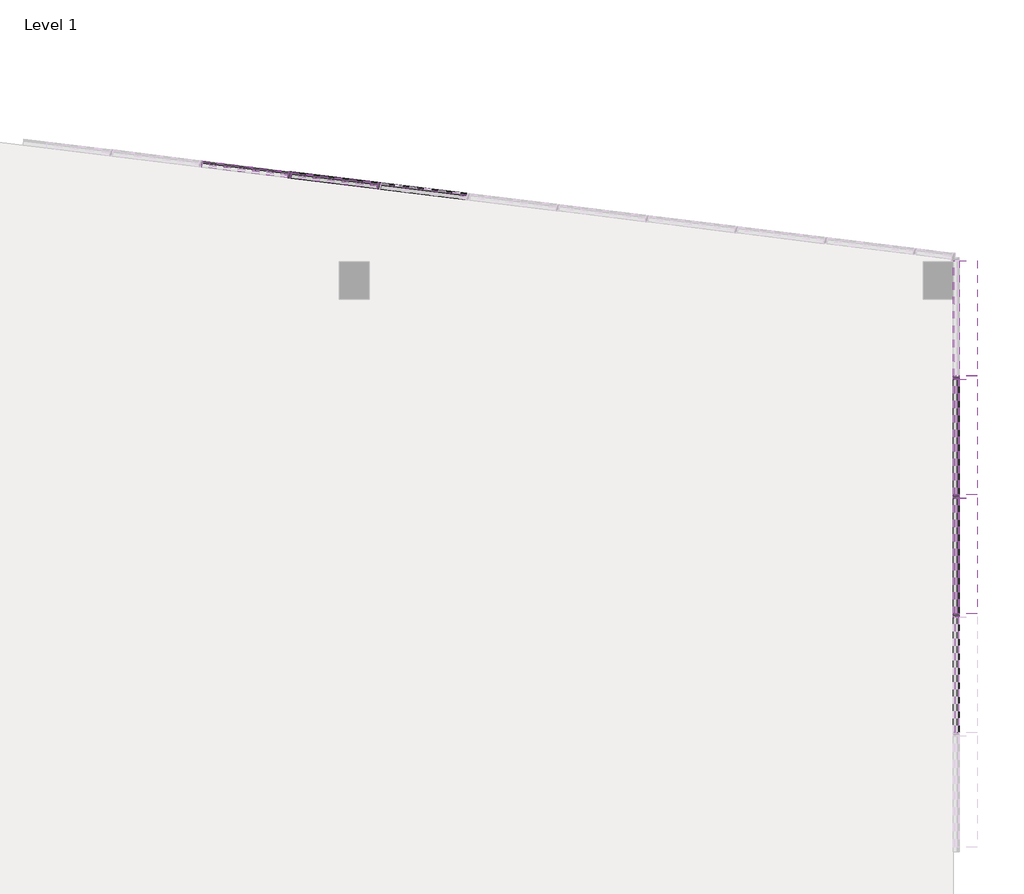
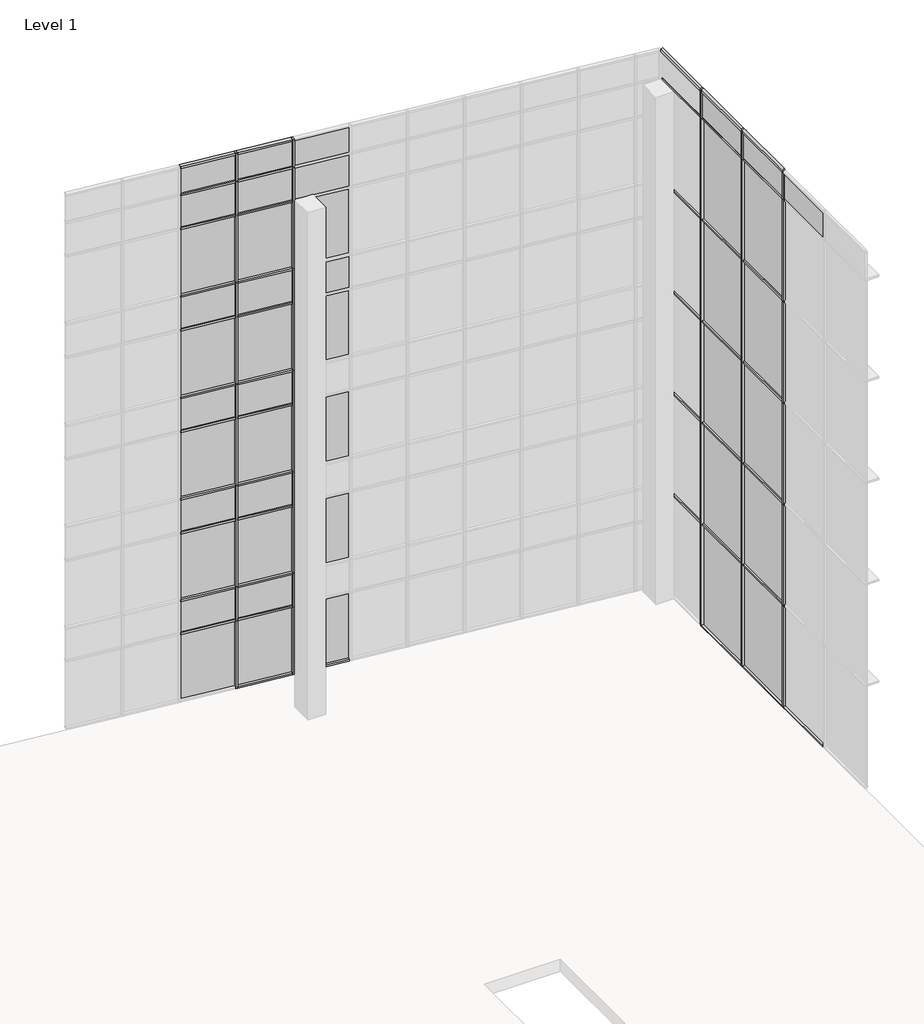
# One storey, part 20 of 23: 77 members, 43 plates.
"""IFC4 building model written with IfcOpenShell, lengths in millimetres."""

from ifc_helpers import new_model, si_unit, origin, place, context, project, spatial, transform, mapped, element, save
from components import member_4178592a, member_eccb456b, member_ad65018b, member_a26b4311, member_2b49869a, member_f92b8aa2, member_810865a4, member_f0fea5a5, member_6d5c3e5e, member_90793d7c, member_64b167af, member_9764dd38, system_panel_glazed_14c75400, system_panel_glazed_bb983545, system_panel_solid_5dfe6f83, system_panel_solid_e25e2004, system_panel_solid_b7551183, system_panel_solid_a8b18003

model = new_model("IFC4")

# Units and contexts
model_context = context("Model", 3, world=origin())
ifc_project = project(units=[si_unit("LENGTHUNIT", "METRE", prefix="MILLI")], contexts=[model_context])

# Site, building, storey
site = spatial("IfcSite", under=ifc_project)
building = spatial("IfcBuilding", under=site)
storey = spatial("IfcBuildingStorey", under=building, Name="Level 1", Elevation=0.0)

# Members
placement = place(None, origin())
member_shape = member_4178592a(model_context)
element("IfcMember", 1, ObjectType="Quad Corner Mullion : 5\" x 5\" Quad Corner", at=placement, inside=storey, context=model_context, shape_type="MappedRepresentation", body=[
    mapped(member_shape, transform((15106.8054088, 2752.982224, 19304.0), x_axis=(0.0, 0.0, 1.0), y_axis=(-1.0, 0.0, 0.0), z_axis=(0.0, -1.0, 0.0))),
])
element("IfcMember", 2, ObjectType="Quad Corner Mullion : 5\" x 5\" Quad Corner", at=placement, inside=storey, context=model_context, shape_type="MappedRepresentation", body=[
    mapped(member_shape, transform((15106.8054088, 5171.1400916, 19304.0), x_axis=(0.0, 0.0, 1.0), y_axis=(-1.0, 0.0, 0.0), z_axis=(0.0, -1.0, 0.0))),
])
member_2_shape = member_eccb456b(model_context)
element("IfcMember", 3, ObjectType="Quad Corner Mullion : 5\" x 5\" Quad Corner", at=placement, inside=storey, context=model_context, shape_type="MappedRepresentation", body=[
    mapped(member_2_shape, transform((15106.8054088, 7589.2979592, 19304.0), x_axis=(0.0, 0.0, 1.0), y_axis=(-1.0, 0.0, 0.0), z_axis=(0.0, -1.0, 0.0))),
])
element("IfcMember", 4, ObjectType="Quad Corner Mullion : 5\" x 5\" Quad Corner", at=placement, inside=storey, context=model_context, shape_type="MappedRepresentation", body=[
    mapped(member_shape, transform((15106.8054088, 2689.482224, 0.0), x_axis=(0.0, 0.0, -1.0), y_axis=(-1.0, 0.0, 0.0), z_axis=(0.0, 1.0, 0.0))),
])
element("IfcMember", 5, ObjectType="Quad Corner Mullion : 5\" x 5\" Quad Corner", at=placement, inside=storey, context=model_context, shape_type="MappedRepresentation", body=[
    mapped(member_shape, transform((15106.8054088, 5107.6400916, 0.0), x_axis=(0.0, 0.0, -1.0), y_axis=(-1.0, 0.0, 0.0), z_axis=(0.0, 1.0, 0.0))),
])
element("IfcMember", 6, ObjectType="Quad Corner Mullion : 5\" x 5\" Quad Corner", at=placement, inside=storey, context=model_context, shape_type="MappedRepresentation", body=[
    mapped(member_shape, transform((15106.8054088, 7525.7979592, 0.0), x_axis=(0.0, 0.0, -1.0), y_axis=(-1.0, 0.0, 0.0), z_axis=(0.0, 1.0, 0.0))),
])
member_3_shape = member_ad65018b(model_context)
element("IfcMember", 7, ObjectType="Rectangular Mullion : 2.5\" x 18\" rectangular", at=placement, inside=storey, context=model_context, shape_type="MappedRepresentation", body=[
    mapped(member_3_shape, transform((15106.8054088, 7589.2979592, 3666.6228811), x_axis=(0.0, 0.0, 1.0), y_axis=(-1.0, 0.0, 0.0), z_axis=(0.0, -1.0, 0.0))),
])
element("IfcMember", 8, ObjectType="Rectangular Mullion : 2.5\" x 18\" rectangular", at=placement, inside=storey, context=model_context, shape_type="MappedRepresentation", body=[
    mapped(member_3_shape, transform((15106.8054088, 7589.2979592, 7324.2228811), x_axis=(0.0, 0.0, 1.0), y_axis=(-1.0, 0.0, 0.0), z_axis=(0.0, -1.0, 0.0))),
])
element("IfcMember", 9, ObjectType="Rectangular Mullion : 2.5\" x 18\" rectangular", at=placement, inside=storey, context=model_context, shape_type="MappedRepresentation", body=[
    mapped(member_3_shape, transform((15106.8054088, 7589.2979592, 10981.8228811), x_axis=(0.0, 0.0, 1.0), y_axis=(-1.0, 0.0, 0.0), z_axis=(0.0, -1.0, 0.0))),
])
element("IfcMember", 10, ObjectType="Rectangular Mullion : 2.5\" x 18\" rectangular", at=placement, inside=storey, context=model_context, shape_type="MappedRepresentation", body=[
    mapped(member_3_shape, transform((15106.8054088, 7589.2979592, 14639.4228811), x_axis=(0.0, 0.0, 1.0), y_axis=(-1.0, 0.0, 0.0), z_axis=(0.0, -1.0, 0.0))),
])
element("IfcMember", 11, ObjectType="Rectangular Mullion : 2.5\" x 18\" rectangular", at=placement, inside=storey, context=model_context, shape_type="MappedRepresentation", body=[
    mapped(member_3_shape, transform((15106.8054088, 7589.2979592, 18297.0228811), x_axis=(0.0, 0.0, 1.0), y_axis=(-1.0, 0.0, 0.0), z_axis=(0.0, -1.0, 0.0))),
])
member_4_shape = member_a26b4311(model_context)
element("IfcMember", 12, ObjectType="Rectangular Mullion : 2.5\" x 18\" rectangular", at=placement, inside=storey, context=model_context, shape_type="MappedRepresentation", body=[
    mapped(member_4_shape, transform((15106.8054088, 2752.982224, 3666.6228811), x_axis=(0.0, 0.0, 1.0), y_axis=(-1.0, 0.0, 0.0), z_axis=(0.0, -1.0, 0.0))),
])
element("IfcMember", 13, ObjectType="Rectangular Mullion : 2.5\" x 18\" rectangular", at=placement, inside=storey, context=model_context, shape_type="MappedRepresentation", body=[
    mapped(member_4_shape, transform((15106.8054088, 5171.1400916, 3666.6228811), x_axis=(0.0, 0.0, 1.0), y_axis=(-1.0, 0.0, 0.0), z_axis=(0.0, -1.0, 0.0))),
])
element("IfcMember", 14, ObjectType="Rectangular Mullion : 2.5\" x 18\" rectangular", at=placement, inside=storey, context=model_context, shape_type="MappedRepresentation", body=[
    mapped(member_4_shape, transform((15106.8054088, 2752.982224, 7324.2228811), x_axis=(0.0, 0.0, 1.0), y_axis=(-1.0, 0.0, 0.0), z_axis=(0.0, -1.0, 0.0))),
])
element("IfcMember", 15, ObjectType="Rectangular Mullion : 2.5\" x 18\" rectangular", at=placement, inside=storey, context=model_context, shape_type="MappedRepresentation", body=[
    mapped(member_4_shape, transform((15106.8054088, 5171.1400916, 7324.2228811), x_axis=(0.0, 0.0, 1.0), y_axis=(-1.0, 0.0, 0.0), z_axis=(0.0, -1.0, 0.0))),
])
element("IfcMember", 16, ObjectType="Rectangular Mullion : 2.5\" x 18\" rectangular", at=placement, inside=storey, context=model_context, shape_type="MappedRepresentation", body=[
    mapped(member_4_shape, transform((15106.8054088, 2752.982224, 10981.8228811), x_axis=(0.0, 0.0, 1.0), y_axis=(-1.0, 0.0, 0.0), z_axis=(0.0, -1.0, 0.0))),
])
element("IfcMember", 17, ObjectType="Rectangular Mullion : 2.5\" x 18\" rectangular", at=placement, inside=storey, context=model_context, shape_type="MappedRepresentation", body=[
    mapped(member_4_shape, transform((15106.8054088, 5171.1400916, 10981.8228811), x_axis=(0.0, 0.0, 1.0), y_axis=(-1.0, 0.0, 0.0), z_axis=(0.0, -1.0, 0.0))),
])
element("IfcMember", 18, ObjectType="Rectangular Mullion : 2.5\" x 18\" rectangular", at=placement, inside=storey, context=model_context, shape_type="MappedRepresentation", body=[
    mapped(member_4_shape, transform((15106.8054088, 2752.982224, 14639.4228811), x_axis=(0.0, 0.0, 1.0), y_axis=(-1.0, 0.0, 0.0), z_axis=(0.0, -1.0, 0.0))),
])
element("IfcMember", 19, ObjectType="Rectangular Mullion : 2.5\" x 18\" rectangular", at=placement, inside=storey, context=model_context, shape_type="MappedRepresentation", body=[
    mapped(member_4_shape, transform((15106.8054088, 5171.1400916, 14639.4228811), x_axis=(0.0, 0.0, 1.0), y_axis=(-1.0, 0.0, 0.0), z_axis=(0.0, -1.0, 0.0))),
])
element("IfcMember", 20, ObjectType="Rectangular Mullion : 2.5\" x 18\" rectangular", at=placement, inside=storey, context=model_context, shape_type="MappedRepresentation", body=[
    mapped(member_4_shape, transform((15106.8054088, 2752.982224, 18297.0228811), x_axis=(0.0, 0.0, 1.0), y_axis=(-1.0, 0.0, 0.0), z_axis=(0.0, -1.0, 0.0))),
])
element("IfcMember", 21, ObjectType="Rectangular Mullion : 2.5\" x 18\" rectangular", at=placement, inside=storey, context=model_context, shape_type="MappedRepresentation", body=[
    mapped(member_4_shape, transform((15106.8054088, 5171.1400916, 18297.0228811), x_axis=(0.0, 0.0, 1.0), y_axis=(-1.0, 0.0, 0.0), z_axis=(0.0, -1.0, 0.0))),
])
member_5_shape = member_2b49869a(model_context)
element("IfcMember", 22, ObjectType="Rectangular Mullion : 2.5\" x 5\" rectangular", at=placement, inside=storey, context=model_context, shape_type="MappedRepresentation", body=[
    mapped(member_5_shape, transform((3375.3424535, 11456.9212356, 2438.4), x_axis=(0.9925461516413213, -0.12186934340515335, 0.0), y_axis=(-0.12186934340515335, -0.9925461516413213, 0.0), z_axis=(0.0, 0.0, -1.0))),
])
element("IfcMember", 23, ObjectType="Rectangular Mullion : 2.5\" x 5\" rectangular", at=placement, inside=storey, context=model_context, shape_type="MappedRepresentation", body=[
    mapped(member_5_shape, transform((1560.1740514, 11679.7958909, 2438.4), x_axis=(0.9925461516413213, -0.12186934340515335, 0.0), y_axis=(-0.12186934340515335, -0.9925461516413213, 0.0), z_axis=(0.0, 0.0, -1.0))),
])
member_6_shape = member_f92b8aa2(model_context)
element("IfcMember", 24, ObjectType="Rectangular Mullion : 2.5\" x 5\" rectangular", at=placement, inside=storey, context=model_context, shape_type="MappedRepresentation", body=[
    mapped(member_6_shape, transform((3375.3424535, 11456.9212356, 18288.0), x_axis=(0.9925461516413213, -0.12186934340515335, 0.0), y_axis=(-0.12186934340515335, -0.9925461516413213, 0.0), z_axis=(0.0, 0.0, -1.0))),
])
element("IfcMember", 25, ObjectType="Rectangular Mullion : 2.5\" x 5\" rectangular", at=placement, inside=storey, context=model_context, shape_type="MappedRepresentation", body=[
    mapped(member_6_shape, transform((1560.1740514, 11679.7958909, 18288.0), x_axis=(0.9925461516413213, -0.12186934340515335, 0.0), y_axis=(-0.12186934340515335, -0.9925461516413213, 0.0), z_axis=(0.0, 0.0, -1.0))),
])
member_7_shape = member_810865a4(model_context)
element("IfcMember", 26, ObjectType="Rectangular Mullion : 2.5\" x 5\" rectangular", at=placement, inside=storey, context=model_context, shape_type="MappedRepresentation", body=[
    mapped(member_7_shape, transform((3375.3424535, 11456.9212356, 14630.4), x_axis=(0.9925461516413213, -0.12186934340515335, 0.0), y_axis=(-0.12186934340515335, -0.9925461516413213, 0.0), z_axis=(0.0, 0.0, -1.0))),
])
element("IfcMember", 27, ObjectType="Rectangular Mullion : 2.5\" x 5\" rectangular", at=placement, inside=storey, context=model_context, shape_type="MappedRepresentation", body=[
    mapped(member_7_shape, transform((3375.3424535, 11456.9212356, 10972.8), x_axis=(0.9925461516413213, -0.12186934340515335, 0.0), y_axis=(-0.12186934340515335, -0.9925461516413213, 0.0), z_axis=(0.0, 0.0, -1.0))),
])
element("IfcMember", 28, ObjectType="Rectangular Mullion : 2.5\" x 5\" rectangular", at=placement, inside=storey, context=model_context, shape_type="MappedRepresentation", body=[
    mapped(member_7_shape, transform((3375.3424535, 11456.9212356, 7315.2), x_axis=(0.9925461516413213, -0.12186934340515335, 0.0), y_axis=(-0.12186934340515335, -0.9925461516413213, 0.0), z_axis=(0.0, 0.0, -1.0))),
])
element("IfcMember", 29, ObjectType="Rectangular Mullion : 2.5\" x 5\" rectangular", at=placement, inside=storey, context=model_context, shape_type="MappedRepresentation", body=[
    mapped(member_7_shape, transform((3375.3424535, 11456.9212356, 3657.6), x_axis=(0.9925461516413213, -0.12186934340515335, 0.0), y_axis=(-0.12186934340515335, -0.9925461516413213, 0.0), z_axis=(0.0, 0.0, -1.0))),
])
element("IfcMember", 30, ObjectType="Rectangular Mullion : 2.5\" x 5\" rectangular", at=placement, inside=storey, context=model_context, shape_type="MappedRepresentation", body=[
    mapped(member_7_shape, transform((1560.1740514, 11679.7958909, 14630.4), x_axis=(0.9925461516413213, -0.12186934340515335, 0.0), y_axis=(-0.12186934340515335, -0.9925461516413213, 0.0), z_axis=(0.0, 0.0, -1.0))),
])
element("IfcMember", 31, ObjectType="Rectangular Mullion : 2.5\" x 5\" rectangular", at=placement, inside=storey, context=model_context, shape_type="MappedRepresentation", body=[
    mapped(member_7_shape, transform((1560.1740514, 11679.7958909, 10972.8), x_axis=(0.9925461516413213, -0.12186934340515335, 0.0), y_axis=(-0.12186934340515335, -0.9925461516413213, 0.0), z_axis=(0.0, 0.0, -1.0))),
])
element("IfcMember", 32, ObjectType="Rectangular Mullion : 2.5\" x 5\" rectangular", at=placement, inside=storey, context=model_context, shape_type="MappedRepresentation", body=[
    mapped(member_7_shape, transform((1560.1740514, 11679.7958909, 7315.2), x_axis=(0.9925461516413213, -0.12186934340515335, 0.0), y_axis=(-0.12186934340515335, -0.9925461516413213, 0.0), z_axis=(0.0, 0.0, -1.0))),
])
element("IfcMember", 33, ObjectType="Rectangular Mullion : 2.5\" x 5\" rectangular", at=placement, inside=storey, context=model_context, shape_type="MappedRepresentation", body=[
    mapped(member_7_shape, transform((1560.1740514, 11679.7958909, 3657.6), x_axis=(0.9925461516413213, -0.12186934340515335, 0.0), y_axis=(-0.12186934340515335, -0.9925461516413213, 0.0), z_axis=(0.0, 0.0, -1.0))),
])
element("IfcMember", 34, ObjectType="Rectangular Mullion : 2.5\" x 5\" rectangular", at=placement, inside=storey, context=model_context, shape_type="MappedRepresentation", body=[
    mapped(member_7_shape, transform((15106.8054088, 5139.3900916, 3666.6228811), x_axis=(0.0, -1.0, 0.0), y_axis=(-1.0, 0.0, 0.0), z_axis=(0.0, 0.0, -1.0))),
])
element("IfcMember", 35, ObjectType="Rectangular Mullion : 2.5\" x 5\" rectangular", at=placement, inside=storey, context=model_context, shape_type="MappedRepresentation", body=[
    mapped(member_7_shape, transform((15106.8054088, 7557.5479592, 3666.6228811), x_axis=(0.0, -1.0, 0.0), y_axis=(-1.0, 0.0, 0.0), z_axis=(0.0, 0.0, -1.0))),
])
element("IfcMember", 36, ObjectType="Rectangular Mullion : 2.5\" x 5\" rectangular", at=placement, inside=storey, context=model_context, shape_type="MappedRepresentation", body=[
    mapped(member_7_shape, transform((15106.8054088, 2721.232224, 3666.6228811), x_axis=(0.0, -1.0, 0.0), y_axis=(-1.0, 0.0, 0.0), z_axis=(0.0, 0.0, -1.0))),
])
element("IfcMember", 37, ObjectType="Rectangular Mullion : 2.5\" x 5\" rectangular", at=placement, inside=storey, context=model_context, shape_type="MappedRepresentation", body=[
    mapped(member_7_shape, transform((15106.8054088, 5139.3900916, 7324.2228811), x_axis=(0.0, -1.0, 0.0), y_axis=(-1.0, 0.0, 0.0), z_axis=(0.0, 0.0, -1.0))),
])
element("IfcMember", 38, ObjectType="Rectangular Mullion : 2.5\" x 5\" rectangular", at=placement, inside=storey, context=model_context, shape_type="MappedRepresentation", body=[
    mapped(member_7_shape, transform((15106.8054088, 7557.5479592, 7324.2228811), x_axis=(0.0, -1.0, 0.0), y_axis=(-1.0, 0.0, 0.0), z_axis=(0.0, 0.0, -1.0))),
])
element("IfcMember", 39, ObjectType="Rectangular Mullion : 2.5\" x 5\" rectangular", at=placement, inside=storey, context=model_context, shape_type="MappedRepresentation", body=[
    mapped(member_7_shape, transform((15106.8054088, 2721.232224, 7324.2228811), x_axis=(0.0, -1.0, 0.0), y_axis=(-1.0, 0.0, 0.0), z_axis=(0.0, 0.0, -1.0))),
])
element("IfcMember", 40, ObjectType="Rectangular Mullion : 2.5\" x 5\" rectangular", at=placement, inside=storey, context=model_context, shape_type="MappedRepresentation", body=[
    mapped(member_7_shape, transform((15106.8054088, 5139.3900916, 10981.8228811), x_axis=(0.0, -1.0, 0.0), y_axis=(-1.0, 0.0, 0.0), z_axis=(0.0, 0.0, -1.0))),
])
element("IfcMember", 41, ObjectType="Rectangular Mullion : 2.5\" x 5\" rectangular", at=placement, inside=storey, context=model_context, shape_type="MappedRepresentation", body=[
    mapped(member_7_shape, transform((15106.8054088, 7557.5479592, 10981.8228811), x_axis=(0.0, -1.0, 0.0), y_axis=(-1.0, 0.0, 0.0), z_axis=(0.0, 0.0, -1.0))),
])
element("IfcMember", 42, ObjectType="Rectangular Mullion : 2.5\" x 5\" rectangular", at=placement, inside=storey, context=model_context, shape_type="MappedRepresentation", body=[
    mapped(member_7_shape, transform((15106.8054088, 2721.232224, 10981.8228811), x_axis=(0.0, -1.0, 0.0), y_axis=(-1.0, 0.0, 0.0), z_axis=(0.0, 0.0, -1.0))),
])
element("IfcMember", 43, ObjectType="Rectangular Mullion : 2.5\" x 5\" rectangular", at=placement, inside=storey, context=model_context, shape_type="MappedRepresentation", body=[
    mapped(member_7_shape, transform((15106.8054088, 5139.3900916, 14639.4228811), x_axis=(0.0, -1.0, 0.0), y_axis=(-1.0, 0.0, 0.0), z_axis=(0.0, 0.0, -1.0))),
])
element("IfcMember", 44, ObjectType="Rectangular Mullion : 2.5\" x 5\" rectangular", at=placement, inside=storey, context=model_context, shape_type="MappedRepresentation", body=[
    mapped(member_7_shape, transform((15106.8054088, 7557.5479592, 14639.4228811), x_axis=(0.0, -1.0, 0.0), y_axis=(-1.0, 0.0, 0.0), z_axis=(0.0, 0.0, -1.0))),
])
element("IfcMember", 45, ObjectType="Rectangular Mullion : 2.5\" x 5\" rectangular", at=placement, inside=storey, context=model_context, shape_type="MappedRepresentation", body=[
    mapped(member_7_shape, transform((15106.8054088, 2721.232224, 14639.4228811), x_axis=(0.0, -1.0, 0.0), y_axis=(-1.0, 0.0, 0.0), z_axis=(0.0, 0.0, -1.0))),
])
member_8_shape = member_f0fea5a5(model_context)
element("IfcMember", 46, ObjectType="Rectangular Mullion : 2.5\" x 5\" rectangular", at=placement, inside=storey, context=model_context, shape_type="MappedRepresentation", body=[
    mapped(member_8_shape, transform((3375.3424535, 11456.9212356, 0.0), x_axis=(0.9925461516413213, -0.12186934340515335, 0.0), y_axis=(-0.12186934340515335, -0.9925461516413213, 0.0), z_axis=(0.0, 0.0, -1.0))),
])
element("IfcMember", 47, ObjectType="Rectangular Mullion : 2.5\" x 5\" rectangular", at=placement, inside=storey, context=model_context, shape_type="MappedRepresentation", body=[
    mapped(member_8_shape, transform((1560.1740514, 11679.7958909, 0.0), x_axis=(0.9925461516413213, -0.12186934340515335, 0.0), y_axis=(-0.12186934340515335, -0.9925461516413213, 0.0), z_axis=(0.0, 0.0, -1.0))),
])
member_9_shape = member_6d5c3e5e(model_context)
element("IfcMember", 48, ObjectType="Rectangular Mullion : 2.5\" x 5\" rectangular", at=placement, inside=storey, context=model_context, shape_type="MappedRepresentation", body=[
    mapped(member_9_shape, transform((3343.8291132, 11460.7905873, 19304.0), x_axis=(0.0, 0.0, 1.0), y_axis=(-0.12186934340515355, -0.9925461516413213, 0.0), z_axis=(0.9925461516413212, -0.12186934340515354, 0.0))),
])
element("IfcMember", 49, ObjectType="Rectangular Mullion : 2.5\" x 5\" rectangular", at=placement, inside=storey, context=model_context, shape_type="MappedRepresentation", body=[
    mapped(member_9_shape, transform((1528.6607111, 11683.6652425, 19304.0), x_axis=(0.0, 0.0, 1.0), y_axis=(-0.12186934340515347, -0.9925461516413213, 0.0), z_axis=(0.9925461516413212, -0.12186934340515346, 0.0))),
])
member_10_shape = member_90793d7c(model_context)
element("IfcMember", 50, ObjectType="Rectangular Mullion : 2.5\" x 5\" rectangular", at=placement, inside=storey, context=model_context, shape_type="MappedRepresentation", body=[
    mapped(member_10_shape, transform((15106.8054088, 5139.3900916, 0.0), x_axis=(0.0, -1.0, 0.0), y_axis=(-1.0, 0.0, 0.0), z_axis=(0.0, 0.0, -1.0))),
])
element("IfcMember", 51, ObjectType="Rectangular Mullion : 2.5\" x 5\" rectangular", at=placement, inside=storey, context=model_context, shape_type="MappedRepresentation", body=[
    mapped(member_10_shape, transform((15106.8054088, 7557.5479592, 0.0), x_axis=(0.0, -1.0, 0.0), y_axis=(-1.0, 0.0, 0.0), z_axis=(0.0, 0.0, -1.0))),
])
element("IfcMember", 52, ObjectType="Rectangular Mullion : 2.5\" x 5\" rectangular", at=placement, inside=storey, context=model_context, shape_type="MappedRepresentation", body=[
    mapped(member_10_shape, transform((15106.8054088, 2721.232224, 0.0), x_axis=(0.0, -1.0, 0.0), y_axis=(-1.0, 0.0, 0.0), z_axis=(0.0, 0.0, -1.0))),
])
member_11_shape = member_64b167af(model_context)
element("IfcMember", 53, ObjectType="Rectangular Mullion : 2.5\" x 5\" rectangular", at=placement, inside=storey, context=model_context, shape_type="MappedRepresentation", body=[
    mapped(member_11_shape, transform((15106.8054088, 5139.3900916, 18297.0228811), x_axis=(0.0, -1.0, 0.0), y_axis=(-1.0, 0.0, 0.0), z_axis=(0.0, 0.0, -1.0))),
])
element("IfcMember", 54, ObjectType="Rectangular Mullion : 2.5\" x 5\" rectangular", at=placement, inside=storey, context=model_context, shape_type="MappedRepresentation", body=[
    mapped(member_11_shape, transform((15106.8054088, 7557.5479592, 18297.0228811), x_axis=(0.0, -1.0, 0.0), y_axis=(-1.0, 0.0, 0.0), z_axis=(0.0, 0.0, -1.0))),
])
element("IfcMember", 55, ObjectType="Rectangular Mullion : 2.5\" x 5\" rectangular", at=placement, inside=storey, context=model_context, shape_type="MappedRepresentation", body=[
    mapped(member_11_shape, transform((15106.8054088, 2721.232224, 18297.0228811), x_axis=(0.0, -1.0, 0.0), y_axis=(-1.0, 0.0, 0.0), z_axis=(0.0, 0.0, -1.0))),
])
member_12_shape = member_9764dd38(model_context)
element("IfcMember", 56, ObjectType="Rectangular Mullion : 2.5\" x 5\" rectangular", at=placement, inside=storey, context=model_context, shape_type="MappedRepresentation", body=[
    mapped(member_12_shape, transform((3343.8291132, 11460.7905873, 17068.8), x_axis=(0.0, 0.0, 1.0), y_axis=(-0.1218693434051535, -0.9925461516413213, 0.0), z_axis=(0.9925461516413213, -0.1218693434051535, 0.0))),
])
element("IfcMember", 57, ObjectType="Rectangular Mullion : 2.5\" x 5\" rectangular", at=placement, inside=storey, context=model_context, shape_type="MappedRepresentation", body=[
    mapped(member_12_shape, transform((1528.6607111, 11683.6652425, 17068.8), x_axis=(0.0, 0.0, 1.0), y_axis=(-0.1218693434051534, -0.9925461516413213, 0.0), z_axis=(0.9925461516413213, -0.1218693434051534, 0.0))),
])
element("IfcMember", 58, ObjectType="Rectangular Mullion : 2.5\" x 5\" rectangular", at=placement, inside=storey, context=model_context, shape_type="MappedRepresentation", body=[
    mapped(member_12_shape, transform((3343.8291132, 11460.7905873, 13411.2), x_axis=(0.0, 0.0, 1.0), y_axis=(-0.12186934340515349, -0.9925461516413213, 0.0), z_axis=(0.9925461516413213, -0.12186934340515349, 0.0))),
])
element("IfcMember", 59, ObjectType="Rectangular Mullion : 2.5\" x 5\" rectangular", at=placement, inside=storey, context=model_context, shape_type="MappedRepresentation", body=[
    mapped(member_12_shape, transform((1528.6607111, 11683.6652425, 13411.2), x_axis=(0.0, 0.0, 1.0), y_axis=(-0.1218693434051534, -0.9925461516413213, 0.0), z_axis=(0.9925461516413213, -0.1218693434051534, 0.0))),
])
element("IfcMember", 60, ObjectType="Rectangular Mullion : 2.5\" x 5\" rectangular", at=placement, inside=storey, context=model_context, shape_type="MappedRepresentation", body=[
    mapped(member_12_shape, transform((3343.8291132, 11460.7905873, 9753.6), x_axis=(0.0, 0.0, 1.0), y_axis=(-0.12186934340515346, -0.9925461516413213, 0.0), z_axis=(0.9925461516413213, -0.12186934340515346, 0.0))),
])
element("IfcMember", 61, ObjectType="Rectangular Mullion : 2.5\" x 5\" rectangular", at=placement, inside=storey, context=model_context, shape_type="MappedRepresentation", body=[
    mapped(member_12_shape, transform((1528.6607111, 11683.6652425, 9753.6), x_axis=(0.0, 0.0, 1.0), y_axis=(-0.1218693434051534, -0.9925461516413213, 0.0), z_axis=(0.9925461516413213, -0.1218693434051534, 0.0))),
])
element("IfcMember", 62, ObjectType="Rectangular Mullion : 2.5\" x 5\" rectangular", at=placement, inside=storey, context=model_context, shape_type="MappedRepresentation", body=[
    mapped(member_12_shape, transform((3343.8291132, 11460.7905873, 6096.0), x_axis=(0.0, 0.0, 1.0), y_axis=(-0.12186934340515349, -0.9925461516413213, 0.0), z_axis=(0.9925461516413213, -0.12186934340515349, 0.0))),
])
element("IfcMember", 63, ObjectType="Rectangular Mullion : 2.5\" x 5\" rectangular", at=placement, inside=storey, context=model_context, shape_type="MappedRepresentation", body=[
    mapped(member_12_shape, transform((1528.6607111, 11683.6652425, 6096.0), x_axis=(0.0, 0.0, 1.0), y_axis=(-0.1218693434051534, -0.9925461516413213, 0.0), z_axis=(0.9925461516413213, -0.1218693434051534, 0.0))),
])
element("IfcMember", 64, ObjectType="Rectangular Mullion : 2.5\" x 5\" rectangular", at=placement, inside=storey, context=model_context, shape_type="MappedRepresentation", body=[
    mapped(member_12_shape, transform((3343.8291132, 11460.7905873, 2470.15), x_axis=(0.0, 0.0, 1.0), y_axis=(-0.12186934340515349, -0.9925461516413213, 0.0), z_axis=(0.9925461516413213, -0.12186934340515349, 0.0))),
])
element("IfcMember", 65, ObjectType="Rectangular Mullion : 2.5\" x 5\" rectangular", at=placement, inside=storey, context=model_context, shape_type="MappedRepresentation", body=[
    mapped(member_12_shape, transform((1528.6607111, 11683.6652425, 2470.15), x_axis=(0.0, 0.0, 1.0), y_axis=(-0.1218693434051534, -0.9925461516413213, 0.0), z_axis=(0.9925461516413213, -0.1218693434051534, 0.0))),
])
element("IfcMember", 66, ObjectType="Rectangular Mullion : 2.5\" x 5\" rectangular", at=placement, inside=storey, context=model_context, shape_type="MappedRepresentation", body=[
    mapped(member_9_shape, transform((3406.8557938, 11453.051884, 0.0), x_axis=(0.0, 0.0, -1.0), y_axis=(-0.12186934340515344, -0.9925461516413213, 0.0), z_axis=(-0.9925461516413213, 0.12186934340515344, 0.0))),
])
element("IfcMember", 67, ObjectType="Rectangular Mullion : 2.5\" x 5\" rectangular", at=placement, inside=storey, context=model_context, shape_type="MappedRepresentation", body=[
    mapped(member_9_shape, transform((1591.6873917, 11675.9265392, 0.0), x_axis=(0.0, 0.0, -1.0), y_axis=(-0.12186934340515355, -0.9925461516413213, 0.0), z_axis=(-0.9925461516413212, 0.12186934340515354, 0.0))),
])
element("IfcMember", 68, ObjectType="Rectangular Mullion : 2.5\" x 5\" rectangular", at=placement, inside=storey, context=model_context, shape_type="MappedRepresentation", body=[
    mapped(member_12_shape, transform((3343.8291132, 11460.7905873, 3657.6), x_axis=(0.0, 0.0, 1.0), y_axis=(-0.12186934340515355, -0.9925461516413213, 0.0), z_axis=(0.9925461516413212, -0.12186934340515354, 0.0))),
])
element("IfcMember", 69, ObjectType="Rectangular Mullion : 2.5\" x 5\" rectangular", at=placement, inside=storey, context=model_context, shape_type="MappedRepresentation", body=[
    mapped(member_12_shape, transform((1528.6607111, 11683.6652425, 3657.6), x_axis=(0.0, 0.0, 1.0), y_axis=(-0.12186934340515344, -0.9925461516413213, 0.0), z_axis=(0.9925461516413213, -0.12186934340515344, 0.0))),
])
element("IfcMember", 70, ObjectType="Rectangular Mullion : 2.5\" x 5\" rectangular", at=placement, inside=storey, context=model_context, shape_type="MappedRepresentation", body=[
    mapped(member_12_shape, transform((3343.8291132, 11460.7905873, 10972.8), x_axis=(0.0, 0.0, 1.0), y_axis=(-0.12186934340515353, -0.9925461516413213, 0.0), z_axis=(0.9925461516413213, -0.12186934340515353, 0.0))),
])
element("IfcMember", 71, ObjectType="Rectangular Mullion : 2.5\" x 5\" rectangular", at=placement, inside=storey, context=model_context, shape_type="MappedRepresentation", body=[
    mapped(member_12_shape, transform((1528.6607111, 11683.6652425, 10972.8), x_axis=(0.0, 0.0, 1.0), y_axis=(-0.12186934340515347, -0.9925461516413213, 0.0), z_axis=(0.9925461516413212, -0.12186934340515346, 0.0))),
])
element("IfcMember", 72, ObjectType="Rectangular Mullion : 2.5\" x 5\" rectangular", at=placement, inside=storey, context=model_context, shape_type="MappedRepresentation", body=[
    mapped(member_12_shape, transform((3343.8291132, 11460.7905873, 14630.4), x_axis=(0.0, 0.0, 1.0), y_axis=(-0.12186934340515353, -0.9925461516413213, 0.0), z_axis=(0.9925461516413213, -0.12186934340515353, 0.0))),
])
element("IfcMember", 73, ObjectType="Rectangular Mullion : 2.5\" x 5\" rectangular", at=placement, inside=storey, context=model_context, shape_type="MappedRepresentation", body=[
    mapped(member_12_shape, transform((1528.6607111, 11683.6652425, 14630.4), x_axis=(0.0, 0.0, 1.0), y_axis=(-0.12186934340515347, -0.9925461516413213, 0.0), z_axis=(0.9925461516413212, -0.12186934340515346, 0.0))),
])
element("IfcMember", 74, ObjectType="Rectangular Mullion : 2.5\" x 5\" rectangular", at=placement, inside=storey, context=model_context, shape_type="MappedRepresentation", body=[
    mapped(member_12_shape, transform((3343.8291132, 11460.7905873, 7315.2), x_axis=(0.0, 0.0, 1.0), y_axis=(-0.12186934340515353, -0.9925461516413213, 0.0), z_axis=(0.9925461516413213, -0.12186934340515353, 0.0))),
])
element("IfcMember", 75, ObjectType="Rectangular Mullion : 2.5\" x 5\" rectangular", at=placement, inside=storey, context=model_context, shape_type="MappedRepresentation", body=[
    mapped(member_12_shape, transform((1528.6607111, 11683.6652425, 7315.2), x_axis=(0.0, 0.0, 1.0), y_axis=(-0.12186934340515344, -0.9925461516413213, 0.0), z_axis=(0.9925461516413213, -0.12186934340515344, 0.0))),
])
element("IfcMember", 76, ObjectType="Rectangular Mullion : 2.5\" x 5\" rectangular", at=placement, inside=storey, context=model_context, shape_type="MappedRepresentation", body=[
    mapped(member_12_shape, transform((3343.8291132, 11460.7905873, 18288.0), x_axis=(0.0, 0.0, 1.0), y_axis=(-0.12186934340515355, -0.9925461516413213, 0.0), z_axis=(0.9925461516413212, -0.12186934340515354, 0.0))),
])
element("IfcMember", 77, ObjectType="Rectangular Mullion : 2.5\" x 5\" rectangular", at=placement, inside=storey, context=model_context, shape_type="MappedRepresentation", body=[
    mapped(member_12_shape, transform((1528.6607111, 11683.6652425, 18288.0), x_axis=(0.0, 0.0, 1.0), y_axis=(-0.12186934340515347, -0.9925461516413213, 0.0), z_axis=(0.9925461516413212, -0.12186934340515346, 0.0))),
])

# Plates
system_panel_glazed_shape = system_panel_glazed_14c75400(model_context)
element("IfcPlate", 78, ObjectType="System Panel : Glazed", at=placement, inside=storey, context=model_context, shape_type="MappedRepresentation", body=[
    mapped(system_panel_glazed_shape, transform((4282.9266546, 11345.483908, 14662.15), x_axis=(0.9925461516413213, -0.12186934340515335, 0.0), y_axis=(0.12186934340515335, 0.9925461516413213, 0.0), z_axis=(0.0, 0.0, 1.0))),
])
element("IfcPlate", 79, ObjectType="System Panel : Glazed", at=placement, inside=storey, context=model_context, shape_type="MappedRepresentation", body=[
    mapped(system_panel_glazed_shape, transform((2467.7582524, 11568.3585633, 14662.15), x_axis=(0.9925461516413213, -0.12186934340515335, 0.0), y_axis=(0.12186934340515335, 0.9925461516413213, 0.0), z_axis=(0.0, 0.0, 1.0))),
])
element("IfcPlate", 80, ObjectType="System Panel : Glazed", at=placement, inside=storey, context=model_context, shape_type="MappedRepresentation", body=[
    mapped(system_panel_glazed_shape, transform((652.5898503, 11791.2332185, 14662.15), x_axis=(0.9925461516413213, -0.12186934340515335, 0.0), y_axis=(0.12186934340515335, 0.9925461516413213, 0.0), z_axis=(0.0, 0.0, 1.0))),
])
element("IfcPlate", 81, ObjectType="System Panel : Glazed", at=placement, inside=storey, context=model_context, shape_type="MappedRepresentation", body=[
    mapped(system_panel_glazed_shape, transform((4282.9266546, 11345.483908, 11004.55), x_axis=(0.9925461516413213, -0.12186934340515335, 0.0), y_axis=(0.12186934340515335, 0.9925461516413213, 0.0), z_axis=(0.0, 0.0, 1.0))),
])
element("IfcPlate", 82, ObjectType="System Panel : Glazed", at=placement, inside=storey, context=model_context, shape_type="MappedRepresentation", body=[
    mapped(system_panel_glazed_shape, transform((2467.7582524, 11568.3585633, 11004.55), x_axis=(0.9925461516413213, -0.12186934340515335, 0.0), y_axis=(0.12186934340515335, 0.9925461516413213, 0.0), z_axis=(0.0, 0.0, 1.0))),
])
element("IfcPlate", 83, ObjectType="System Panel : Glazed", at=placement, inside=storey, context=model_context, shape_type="MappedRepresentation", body=[
    mapped(system_panel_glazed_shape, transform((652.5898503, 11791.2332185, 11004.55), x_axis=(0.9925461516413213, -0.12186934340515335, 0.0), y_axis=(0.12186934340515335, 0.9925461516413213, 0.0), z_axis=(0.0, 0.0, 1.0))),
])
element("IfcPlate", 84, ObjectType="System Panel : Glazed", at=placement, inside=storey, context=model_context, shape_type="MappedRepresentation", body=[
    mapped(system_panel_glazed_shape, transform((4282.9266546, 11345.483908, 7346.95), x_axis=(0.9925461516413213, -0.12186934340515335, 0.0), y_axis=(0.12186934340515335, 0.9925461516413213, 0.0), z_axis=(0.0, 0.0, 1.0))),
])
element("IfcPlate", 85, ObjectType="System Panel : Glazed", at=placement, inside=storey, context=model_context, shape_type="MappedRepresentation", body=[
    mapped(system_panel_glazed_shape, transform((2467.7582524, 11568.3585633, 7346.95), x_axis=(0.9925461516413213, -0.12186934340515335, 0.0), y_axis=(0.12186934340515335, 0.9925461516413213, 0.0), z_axis=(0.0, 0.0, 1.0))),
])
element("IfcPlate", 86, ObjectType="System Panel : Glazed", at=placement, inside=storey, context=model_context, shape_type="MappedRepresentation", body=[
    mapped(system_panel_glazed_shape, transform((652.5898503, 11791.2332185, 7346.95), x_axis=(0.9925461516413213, -0.12186934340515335, 0.0), y_axis=(0.12186934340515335, 0.9925461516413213, 0.0), z_axis=(0.0, 0.0, 1.0))),
])
element("IfcPlate", 87, ObjectType="System Panel : Glazed", at=placement, inside=storey, context=model_context, shape_type="MappedRepresentation", body=[
    mapped(system_panel_glazed_shape, transform((4282.9266546, 11345.483908, 3689.35), x_axis=(0.9925461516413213, -0.12186934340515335, 0.0), y_axis=(0.12186934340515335, 0.9925461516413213, 0.0), z_axis=(0.0, 0.0, 1.0))),
])
element("IfcPlate", 88, ObjectType="System Panel : Glazed", at=placement, inside=storey, context=model_context, shape_type="MappedRepresentation", body=[
    mapped(system_panel_glazed_shape, transform((2467.7582524, 11568.3585633, 3689.35), x_axis=(0.9925461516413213, -0.12186934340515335, 0.0), y_axis=(0.12186934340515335, 0.9925461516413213, 0.0), z_axis=(0.0, 0.0, 1.0))),
])
element("IfcPlate", 89, ObjectType="System Panel : Glazed", at=placement, inside=storey, context=model_context, shape_type="MappedRepresentation", body=[
    mapped(system_panel_glazed_shape, transform((652.5898503, 11791.2332185, 3689.35), x_axis=(0.9925461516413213, -0.12186934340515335, 0.0), y_axis=(0.12186934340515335, 0.9925461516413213, 0.0), z_axis=(0.0, 0.0, 1.0))),
])
element("IfcPlate", 90, ObjectType="System Panel : Glazed", at=placement, inside=storey, context=model_context, shape_type="MappedRepresentation", body=[
    mapped(system_panel_glazed_shape, transform((4282.9266546, 11345.483908, 63.5), x_axis=(0.9925461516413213, -0.12186934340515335, 0.0), y_axis=(0.12186934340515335, 0.9925461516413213, 0.0), z_axis=(0.0, 0.0, 1.0))),
])
element("IfcPlate", 91, ObjectType="System Panel : Glazed", at=placement, inside=storey, context=model_context, shape_type="MappedRepresentation", body=[
    mapped(system_panel_glazed_shape, transform((2467.7582524, 11568.3585633, 63.5), x_axis=(0.9925461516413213, -0.12186934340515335, 0.0), y_axis=(0.12186934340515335, 0.9925461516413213, 0.0), z_axis=(0.0, 0.0, 1.0))),
])
element("IfcPlate", 92, ObjectType="System Panel : Glazed", at=placement, inside=storey, context=model_context, shape_type="MappedRepresentation", body=[
    mapped(system_panel_glazed_shape, transform((652.5898503, 11791.2332185, 63.5), x_axis=(0.9925461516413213, -0.12186934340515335, 0.0), y_axis=(0.12186934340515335, 0.9925461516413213, 0.0), z_axis=(0.0, 0.0, 1.0))),
])
system_panel_glazed_2_shape = system_panel_glazed_bb983545(model_context)
element("IfcPlate", 93, ObjectType="System Panel : Glazed", at=placement, inside=storey, context=model_context, shape_type="MappedRepresentation", body=[
    mapped(system_panel_glazed_2_shape, transform((15106.8054088, 6348.4690254, 40.7728811), x_axis=(0.0, -1.0, 0.0), y_axis=(1.0, 0.0, 0.0), z_axis=(0.0, 0.0, 1.0))),
])
element("IfcPlate", 94, ObjectType="System Panel : Glazed", at=placement, inside=storey, context=model_context, shape_type="MappedRepresentation", body=[
    mapped(system_panel_glazed_2_shape, transform((15106.8054088, 6348.4690254, 3698.3728811), x_axis=(0.0, -1.0, 0.0), y_axis=(1.0, 0.0, 0.0), z_axis=(0.0, 0.0, 1.0))),
])
element("IfcPlate", 95, ObjectType="System Panel : Glazed", at=placement, inside=storey, context=model_context, shape_type="MappedRepresentation", body=[
    mapped(system_panel_glazed_2_shape, transform((15106.8054088, 6348.4690254, 7355.9728811), x_axis=(0.0, -1.0, 0.0), y_axis=(1.0, 0.0, 0.0), z_axis=(0.0, 0.0, 1.0))),
])
element("IfcPlate", 96, ObjectType="System Panel : Glazed", at=placement, inside=storey, context=model_context, shape_type="MappedRepresentation", body=[
    mapped(system_panel_glazed_2_shape, transform((15106.8054088, 6348.4690254, 11013.5728811), x_axis=(0.0, -1.0, 0.0), y_axis=(1.0, 0.0, 0.0), z_axis=(0.0, 0.0, 1.0))),
])
element("IfcPlate", 97, ObjectType="System Panel : Glazed", at=placement, inside=storey, context=model_context, shape_type="MappedRepresentation", body=[
    mapped(system_panel_glazed_2_shape, transform((15106.8054088, 6348.4690254, 14671.1728811), x_axis=(0.0, -1.0, 0.0), y_axis=(1.0, 0.0, 0.0), z_axis=(0.0, 0.0, 1.0))),
])
element("IfcPlate", 98, ObjectType="System Panel : Glazed", at=placement, inside=storey, context=model_context, shape_type="MappedRepresentation", body=[
    mapped(system_panel_glazed_2_shape, transform((15106.8054088, 3930.3111578, 40.7728811), x_axis=(0.0, -1.0, 0.0), y_axis=(1.0, 0.0, 0.0), z_axis=(0.0, 0.0, 1.0))),
])
element("IfcPlate", 99, ObjectType="System Panel : Glazed", at=placement, inside=storey, context=model_context, shape_type="MappedRepresentation", body=[
    mapped(system_panel_glazed_2_shape, transform((15106.8054088, 3930.3111578, 3698.3728811), x_axis=(0.0, -1.0, 0.0), y_axis=(1.0, 0.0, 0.0), z_axis=(0.0, 0.0, 1.0))),
])
element("IfcPlate", 100, ObjectType="System Panel : Glazed", at=placement, inside=storey, context=model_context, shape_type="MappedRepresentation", body=[
    mapped(system_panel_glazed_2_shape, transform((15106.8054088, 3930.3111578, 7355.9728811), x_axis=(0.0, -1.0, 0.0), y_axis=(1.0, 0.0, 0.0), z_axis=(0.0, 0.0, 1.0))),
])
element("IfcPlate", 101, ObjectType="System Panel : Glazed", at=placement, inside=storey, context=model_context, shape_type="MappedRepresentation", body=[
    mapped(system_panel_glazed_2_shape, transform((15106.8054088, 3930.3111578, 11013.5728811), x_axis=(0.0, -1.0, 0.0), y_axis=(1.0, 0.0, 0.0), z_axis=(0.0, 0.0, 1.0))),
])
element("IfcPlate", 102, ObjectType="System Panel : Glazed", at=placement, inside=storey, context=model_context, shape_type="MappedRepresentation", body=[
    mapped(system_panel_glazed_2_shape, transform((15106.8054088, 3930.3111578, 14671.1728811), x_axis=(0.0, -1.0, 0.0), y_axis=(1.0, 0.0, 0.0), z_axis=(0.0, 0.0, 1.0))),
])
system_panel_solid_shape = system_panel_solid_5dfe6f83(model_context)
element("IfcPlate", 103, ObjectType="System Panel : Solid", at=placement, inside=storey, context=model_context, shape_type="MappedRepresentation", body=[
    mapped(system_panel_solid_shape, transform((652.5898503, 11791.2332185, 18319.75), x_axis=(0.9925461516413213, -0.12186934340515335, 0.0), y_axis=(0.12186934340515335, 0.9925461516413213, 0.0), z_axis=(0.0, 0.0, 1.0))),
])
element("IfcPlate", 104, ObjectType="System Panel : Solid", at=placement, inside=storey, context=model_context, shape_type="MappedRepresentation", body=[
    mapped(system_panel_solid_shape, transform((2467.7582524, 11568.3585633, 18319.75), x_axis=(0.9925461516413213, -0.12186934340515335, 0.0), y_axis=(0.12186934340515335, 0.9925461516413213, 0.0), z_axis=(0.0, 0.0, 1.0))),
])
element("IfcPlate", 105, ObjectType="System Panel : Solid", at=placement, inside=storey, context=model_context, shape_type="MappedRepresentation", body=[
    mapped(system_panel_solid_shape, transform((4282.9266546, 11345.483908, 18319.75), x_axis=(0.9925461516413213, -0.12186934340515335, 0.0), y_axis=(0.12186934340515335, 0.9925461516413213, 0.0), z_axis=(0.0, 0.0, 1.0))),
])
system_panel_solid_2_shape = system_panel_solid_e25e2004(model_context)
element("IfcPlate", 106, ObjectType="System Panel : Solid", at=placement, inside=storey, context=model_context, shape_type="MappedRepresentation", body=[
    mapped(system_panel_solid_2_shape, transform((4282.9266546, 11345.483908, 17100.55), x_axis=(0.9925461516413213, -0.12186934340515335, 0.0), y_axis=(0.12186934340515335, 0.9925461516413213, 0.0), z_axis=(0.0, 0.0, 1.0))),
])
element("IfcPlate", 107, ObjectType="System Panel : Solid", at=placement, inside=storey, context=model_context, shape_type="MappedRepresentation", body=[
    mapped(system_panel_solid_2_shape, transform((2467.7582524, 11568.3585633, 17100.55), x_axis=(0.9925461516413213, -0.12186934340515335, 0.0), y_axis=(0.12186934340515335, 0.9925461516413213, 0.0), z_axis=(0.0, 0.0, 1.0))),
])
element("IfcPlate", 108, ObjectType="System Panel : Solid", at=placement, inside=storey, context=model_context, shape_type="MappedRepresentation", body=[
    mapped(system_panel_solid_2_shape, transform((652.5898503, 11791.2332185, 17100.55), x_axis=(0.9925461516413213, -0.12186934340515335, 0.0), y_axis=(0.12186934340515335, 0.9925461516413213, 0.0), z_axis=(0.0, 0.0, 1.0))),
])
element("IfcPlate", 109, ObjectType="System Panel : Solid", at=placement, inside=storey, context=model_context, shape_type="MappedRepresentation", body=[
    mapped(system_panel_solid_2_shape, transform((4282.9266546, 11345.483908, 13442.95), x_axis=(0.9925461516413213, -0.12186934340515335, 0.0), y_axis=(0.12186934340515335, 0.9925461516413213, 0.0), z_axis=(0.0, 0.0, 1.0))),
])
element("IfcPlate", 110, ObjectType="System Panel : Solid", at=placement, inside=storey, context=model_context, shape_type="MappedRepresentation", body=[
    mapped(system_panel_solid_2_shape, transform((2467.7582524, 11568.3585633, 13442.95), x_axis=(0.9925461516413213, -0.12186934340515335, 0.0), y_axis=(0.12186934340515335, 0.9925461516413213, 0.0), z_axis=(0.0, 0.0, 1.0))),
])
element("IfcPlate", 111, ObjectType="System Panel : Solid", at=placement, inside=storey, context=model_context, shape_type="MappedRepresentation", body=[
    mapped(system_panel_solid_2_shape, transform((652.5898503, 11791.2332185, 13442.95), x_axis=(0.9925461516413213, -0.12186934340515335, 0.0), y_axis=(0.12186934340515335, 0.9925461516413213, 0.0), z_axis=(0.0, 0.0, 1.0))),
])
element("IfcPlate", 112, ObjectType="System Panel : Solid", at=placement, inside=storey, context=model_context, shape_type="MappedRepresentation", body=[
    mapped(system_panel_solid_2_shape, transform((2467.7582524, 11568.3585633, 9785.35), x_axis=(0.9925461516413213, -0.12186934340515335, 0.0), y_axis=(0.12186934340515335, 0.9925461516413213, 0.0), z_axis=(0.0, 0.0, 1.0))),
])
element("IfcPlate", 113, ObjectType="System Panel : Solid", at=placement, inside=storey, context=model_context, shape_type="MappedRepresentation", body=[
    mapped(system_panel_solid_2_shape, transform((652.5898503, 11791.2332185, 9785.35), x_axis=(0.9925461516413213, -0.12186934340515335, 0.0), y_axis=(0.12186934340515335, 0.9925461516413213, 0.0), z_axis=(0.0, 0.0, 1.0))),
])
element("IfcPlate", 114, ObjectType="System Panel : Solid", at=placement, inside=storey, context=model_context, shape_type="MappedRepresentation", body=[
    mapped(system_panel_solid_2_shape, transform((2467.7582524, 11568.3585633, 6127.75), x_axis=(0.9925461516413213, -0.12186934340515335, 0.0), y_axis=(0.12186934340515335, 0.9925461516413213, 0.0), z_axis=(0.0, 0.0, 1.0))),
])
element("IfcPlate", 115, ObjectType="System Panel : Solid", at=placement, inside=storey, context=model_context, shape_type="MappedRepresentation", body=[
    mapped(system_panel_solid_2_shape, transform((652.5898503, 11791.2332185, 6127.75), x_axis=(0.9925461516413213, -0.12186934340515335, 0.0), y_axis=(0.12186934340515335, 0.9925461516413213, 0.0), z_axis=(0.0, 0.0, 1.0))),
])
system_panel_solid_3_shape = system_panel_solid_b7551183(model_context)
element("IfcPlate", 116, ObjectType="System Panel : Solid", at=placement, inside=storey, context=model_context, shape_type="MappedRepresentation", body=[
    mapped(system_panel_solid_3_shape, transform((2467.7582524, 11568.3585633, 2501.9), x_axis=(0.9925461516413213, -0.12186934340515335, 0.0), y_axis=(0.12186934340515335, 0.9925461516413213, 0.0), z_axis=(0.0, 0.0, 1.0))),
])
element("IfcPlate", 117, ObjectType="System Panel : Solid", at=placement, inside=storey, context=model_context, shape_type="MappedRepresentation", body=[
    mapped(system_panel_solid_3_shape, transform((652.5898503, 11791.2332185, 2501.9), x_axis=(0.9925461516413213, -0.12186934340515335, 0.0), y_axis=(0.12186934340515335, 0.9925461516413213, 0.0), z_axis=(0.0, 0.0, 1.0))),
])
system_panel_solid_4_shape = system_panel_solid_a8b18003(model_context)
element("IfcPlate", 118, ObjectType="System Panel : Solid", at=placement, inside=storey, context=model_context, shape_type="MappedRepresentation", body=[
    mapped(system_panel_solid_4_shape, transform((15106.8054088, 6348.4690254, 18328.7728811), x_axis=(0.0, -1.0, 0.0), y_axis=(1.0, 0.0, 0.0), z_axis=(0.0, 0.0, 1.0))),
])
element("IfcPlate", 119, ObjectType="System Panel : Solid", at=placement, inside=storey, context=model_context, shape_type="MappedRepresentation", body=[
    mapped(system_panel_solid_4_shape, transform((15106.8054088, 3930.3111578, 18328.7728811), x_axis=(0.0, -1.0, 0.0), y_axis=(1.0, 0.0, 0.0), z_axis=(0.0, 0.0, 1.0))),
])
element("IfcPlate", 120, ObjectType="System Panel : Solid", at=placement, inside=storey, context=model_context, shape_type="MappedRepresentation", body=[
    mapped(system_panel_solid_4_shape, transform((15106.8054088, 1512.1532902, 18328.7728811), x_axis=(0.0, -1.0, 0.0), y_axis=(1.0, 0.0, 0.0), z_axis=(0.0, 0.0, 1.0))),
])

save(model, "model.ifc")
